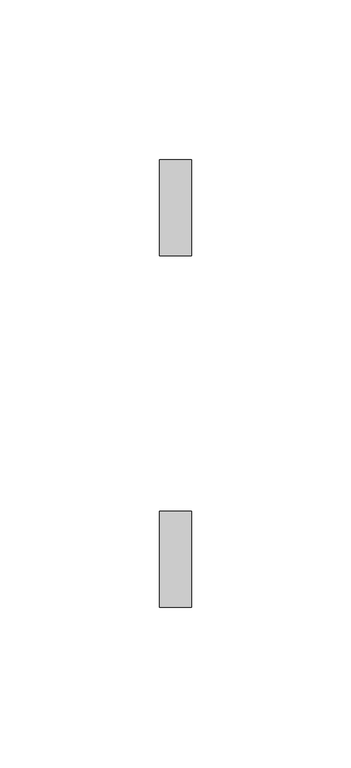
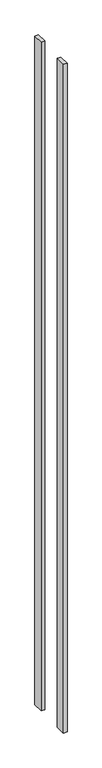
"""IFC4 building model written with IfcOpenShell, lengths in millimetres: proxy geometry, Uszczelniacz : Uszczelniacz."""

from ifc_helpers import new_model, si_unit, origin, origin_with_axes, place, context, project, spatial, polyline, outline, extrude, source, transform, mapped, element, save


def generic_models_8e1c56ab(model_context):
    return source(origin(), model_context, "Body", "SweptSolid", [
        extrude(outline(polyline([(17886.0136184, 15013.3863455), (17896.0136184, 15013.3863455), (17896.0136184, 14983.3863455), (17886.0136184, 14983.3863455), (17886.0136184, 15013.3863455)])), origin_with_axes(), (0.0, 0.0, 1.0), 2000.0),
        extrude(outline(polyline([(17886.0136184, 14873.3863455), (17886.0136184, 14903.3863455), (17896.0136184, 14903.3863455), (17896.0136184, 14873.3863455), (17886.0136184, 14873.3863455)])), origin_with_axes(), (0.0, 0.0, 1.0), 2000.0),
    ])


if __name__ == "__main__":
    model = new_model("IFC4")
    model_context = context("Model", 3, world=origin())
    ifc_project = project(units=[si_unit("LENGTHUNIT", "METRE", prefix="MILLI")], contexts=[model_context])
    site = spatial("IfcSite", under=ifc_project)
    building = spatial("IfcBuilding", under=site)
    placement = place(None, origin())
    generic_models_shape = generic_models_8e1c56ab(model_context)
    element("IfcBuildingElementProxy", 1, Name="Uszczelniacz : Uszczelniacz", ObjectType="Uszczelniacz : Uszczelniacz", at=placement, inside=building, context=model_context, shape_type="MappedRepresentation", body=[
        mapped(generic_models_shape, transform((0.0, 0.0, 0.0), x_axis=(1.0, 0.0, 0.0), y_axis=(0.0, 1.0, 0.0), z_axis=(0.0, 0.0, 1.0))),
    ])
    save(model, "model.ifc")
